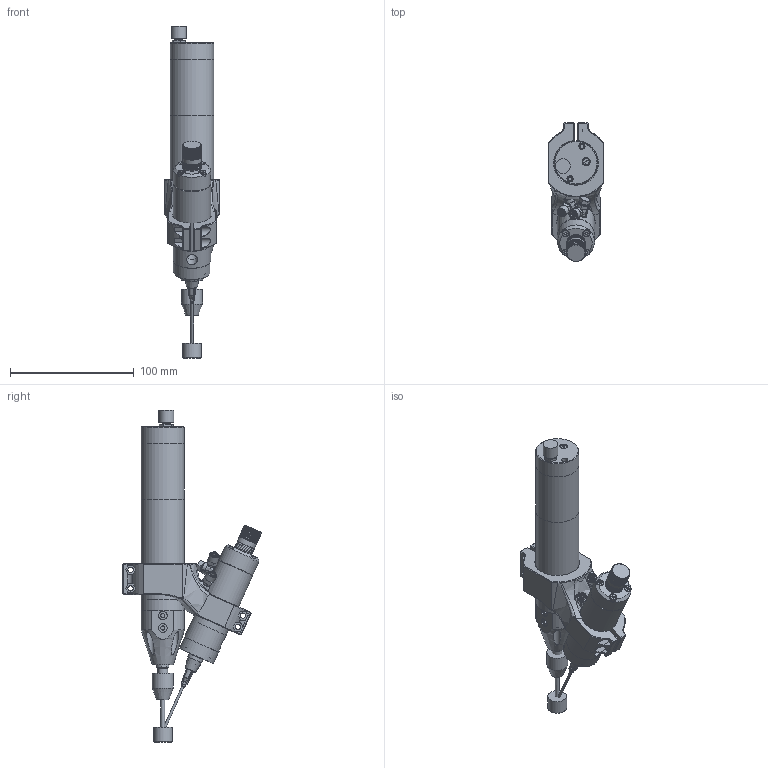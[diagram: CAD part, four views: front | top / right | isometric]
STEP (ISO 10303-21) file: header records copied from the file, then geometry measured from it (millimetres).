
FILE_DESCRIPTION (( 'STEP AP214' ), '1' );
FILE_NAME ('DAVR-1000-DA-250.STEP', '2024-10-11T10:22:06', ( '' ), ( '' ), 'SwSTEP 2.0', 'SolidWorks 2024', '' );
FILE_SCHEMA (( 'AUTOMOTIVE_DESIGN' ));
Length unit declared in the file: millimetre
Products named in the file (1): DAVR-1000-DA-250
Bounding box: 45 x 112.14 x 267.93 mm (x, y, z)
Volume: 273908.2 mm3; surface area: 97066 mm2
Topology: 43 solids, 43 shells, 1387 faces, 3254 edges, 2049 vertices
Faces by surface type: plane 714, cylinder 381, cone 168, bspline 117, torus 4, sphere 3
Full cylindrical faces by diameter (mm): 1 x3, 1.5 x1, 1.562 x1, 1.676 x1, 1.841 x2, 1.854 x1, 2 x9, 2.5 x9, 2.87 x1, 3 x24, 3.2 x2, 3.3 x2, 3.4 x4, 3.8 x1, 4.2 x4, 4.3 x8, 4.4 x1, 4.885 x2, 5 x14, 5.15 x2, 5.5 x12, 5.8 x1, 6 x18, 6.05 x1, 6.5 x5, 6.55 x1, 6.655 x1, 6.9 x2, 7 x5, 7.9 x1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
Entity records: 47512 total; most frequent: CARTESIAN_POINT 18176, DIRECTION 5865, ORIENTED_EDGE 5554, EDGE_CURVE 2777, AXIS2_PLACEMENT_3D 2372, VERTEX_POINT 1895, EDGE_LOOP 1878, FACE_OUTER_BOUND 1620
